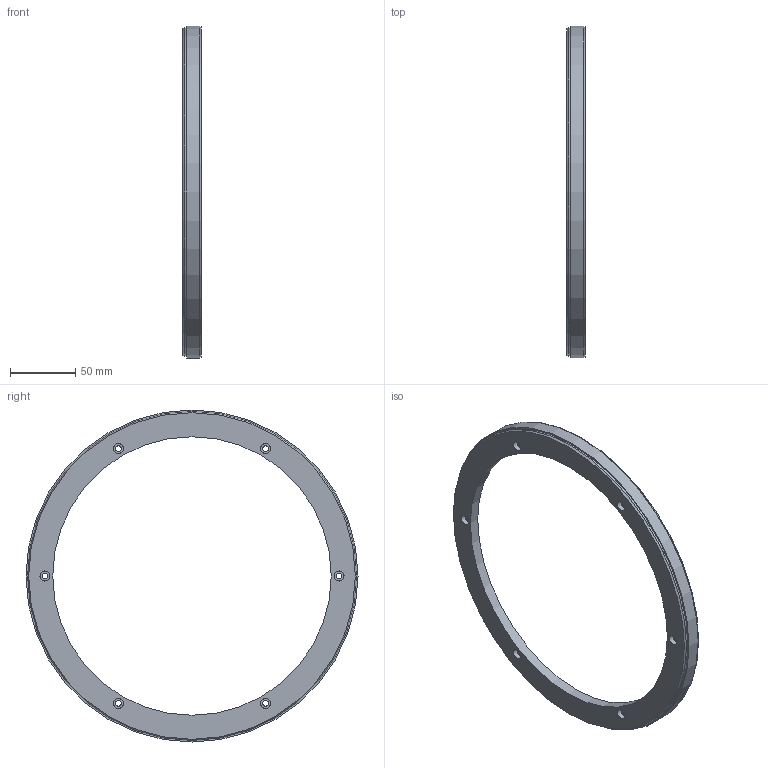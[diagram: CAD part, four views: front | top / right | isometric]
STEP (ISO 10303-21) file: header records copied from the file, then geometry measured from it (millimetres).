
FILE_DESCRIPTION((''),'2;1');
FILE_NAME('K:\Daten\Bauteil2.stp','2009-02-20T11:59:37',('kamp'),(''),'Autodesk Inventor 2008','Autodesk Inventor 2008','');
FILE_SCHEMA(('AUTOMOTIVE_DESIGN { 1 0 10303 214 1 1 1 1 }'));
Length unit declared in the file: millimetre
Products named in the file (1): Bauteil2
Bounding box: 14 x 255.1 x 255.1 mm (x, y, z)
Volume: 166704.3 mm3; surface area: 51473.4 mm2
Topology: 1 solids, 1 shells, 29 faces, 54 edges, 36 vertices
Faces by surface type: bspline 18, cylinder 5, plane 5, cone 1
Full cylindrical faces by diameter (mm): 214 x1, 233 x1, 252.7 x1, 254.1 x1, 255.1 x1
Entity records: 854 total; most frequent: CARTESIAN_POINT 322, DIRECTION 94, ORIENTED_EDGE 70, EDGE_LOOP 70, AXIS2_PLACEMENT_3D 47, FACE_BOUND 41, VERTEX_POINT 35, CIRCLE 35
